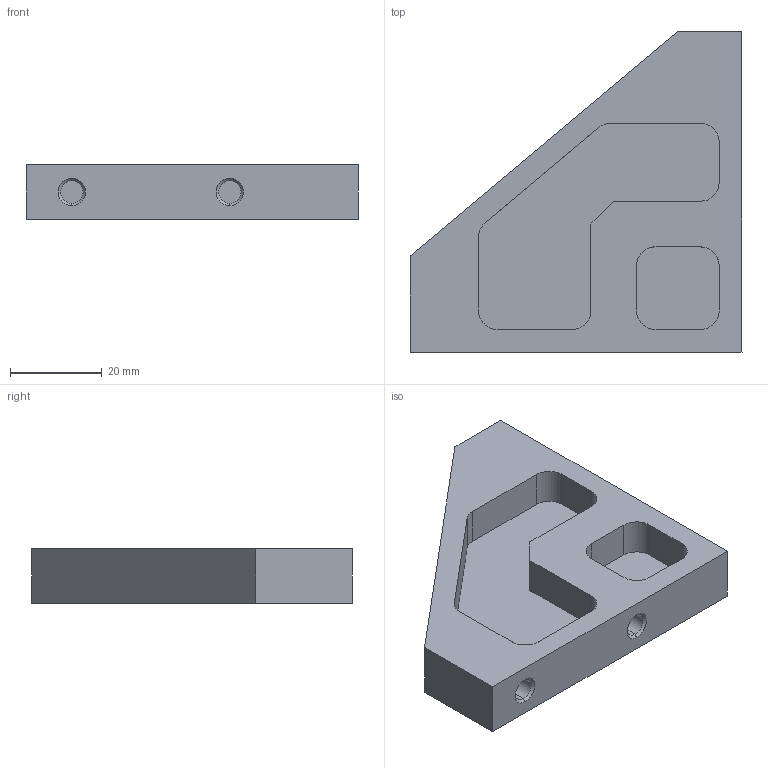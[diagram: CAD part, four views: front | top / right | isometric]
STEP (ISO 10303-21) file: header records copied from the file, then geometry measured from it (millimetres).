
FILE_DESCRIPTION(/* description */ ('VariCAD 2010-3.03 AP-214'),/* implementation_level */ '2;1');
FILE_NAME(/* name */ '0353-22-04',/* time_stamp */ '2011-06-28T18:59:13-06:00',/* author */ (''),/* organization */ (''),/* preprocessor_version */ 'ST-DEVELOPER v12',/* originating_system */ 'VariCAD 2010-3.03; kernel version (20100102)',/* authorisation */ '');
FILE_SCHEMA (('AUTOMOTIVE_DESIGN'));
Length unit declared in the file: millimetre
Products named in the file (1): Part
Bounding box: 72.5 x 70 x 12 mm (x, y, z)
Volume: 29336.1 mm3; surface area: 17080.8 mm2
Topology: 5 solids, 5 shells, 83 faces, 185 edges, 118 vertices
Faces by surface type: cylinder 42, plane 33, cone 8
Entity records: 2984 total; most frequent: DIRECTION 447, CARTESIAN_POINT 392, ORIENTED_EDGE 370, EDGE_CURVE 185, AXIS2_PLACEMENT_3D 173, VERTEX_POINT 118, LINE 101, VECTOR 101
